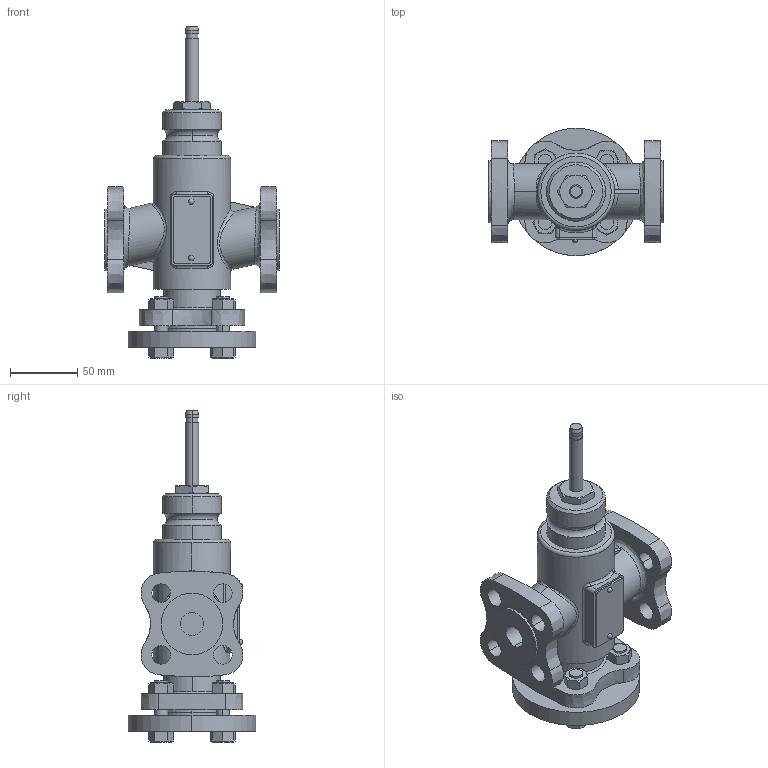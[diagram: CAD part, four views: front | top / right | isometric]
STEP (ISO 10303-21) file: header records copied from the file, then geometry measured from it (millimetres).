
FILE_DESCRIPTION(/* description */ ('Step214'),/* implementation_level */ '2;1');
FILE_NAME(/* name */ 'VVF53 DN15.stp',/* time_stamp */ '2015-11-10T13:34:37+01:00',/* author */ (''),/* organization */ ('Siemens'),/* preprocessor_version */ 'ST-DEVELOPER v15',/* originating_system */ 'SIEMENS PLM Software NX 8.5',/* authorisation */ 'for Duktil only');
FILE_SCHEMA (('AUTOMOTIVE_DESIGN { 1 0 10303 214 3 1 1 1 }'));
Length unit declared in the file: millimetre
Products named in the file (1): Volc19F47525lff8
Bounding box: 130 x 95 x 247.5 mm (x, y, z)
Volume: 697238.7 mm3; surface area: 101633.3 mm2
Topology: 1 solids, 2 shells, 280 faces, 714 edges, 466 vertices
Faces by surface type: plane 112, cylinder 84, cone 40, extrusion 24, bspline 10, torus 8, sphere 2
Entity records: 11267 total; most frequent: CARTESIAN_POINT 4832, ORIENTED_EDGE 1412, DIRECTION 1244, EDGE_CURVE 706, AXIS2_PLACEMENT_3D 491, VERTEX_POINT 464, EDGE_LOOP 338, ADVANCED_FACE 280
